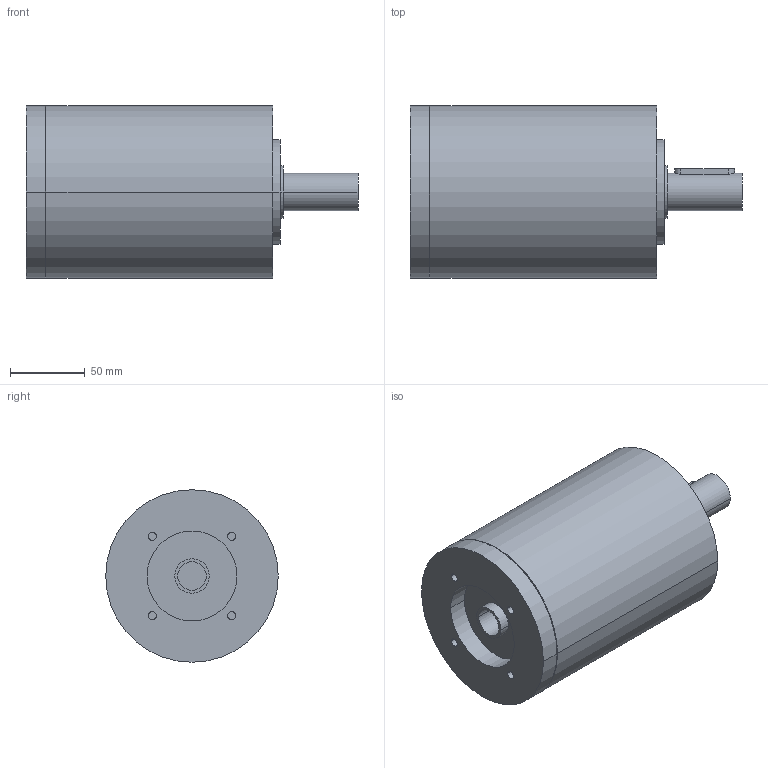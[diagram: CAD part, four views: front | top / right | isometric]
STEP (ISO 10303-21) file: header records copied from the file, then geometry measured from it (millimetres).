
FILE_DESCRIPTION(('CoCreate Modeling STEP Export'),'2;1');
FILE_NAME('GPR125_ig-9-12-16-20-28-35_25_B14_19_P02.stp','2014-08-26T14:10:36',(''),(''),'CoCreate Modeling STEP processor for AP214 (Solid Model)','CoCreate Modeling 16.00C 25-Feb-2009 (C) Parametric Technology GmbH','');
FILE_SCHEMA(('AUTOMOTIVE_DESIGN { 1 0 10303 214 1 1 1 1 }'));
Length unit declared in the file: millimetre
Products named in the file (2): GPR125_ig-9-12-16-20-28-35_25_B14_19_P02
Assembly tree (1 placements, depth 2):
  GPR125_ig-9-12-16-20-28-35_25_B14_19_P02
    GPR125_ig-9-12-16-20-28-35_25_B14_19_P02
Bounding box: 221.4 x 115 x 115 mm (x, y, z)
Volume: 1702806.8 mm3; surface area: 95059.7 mm2
Topology: 1 solids, 1 shells, 72 faces, 173 edges, 121 vertices
Faces by surface type: cylinder 44, plane 24, cone 4
Entity records: 1805 total; most frequent: ORIENTED_EDGE 342, CARTESIAN_POINT 336, DIRECTION 240, EDGE_CURVE 171, VERTEX_POINT 121, AXIS2_PLACEMENT_3D 93, EDGE_LOOP 92, FACE_OUTER_BOUND 72
